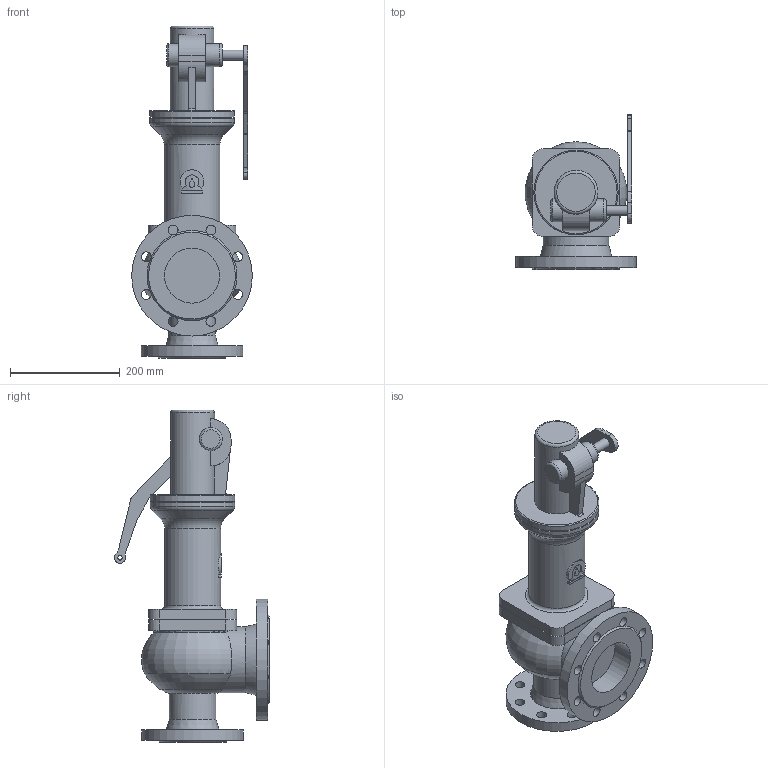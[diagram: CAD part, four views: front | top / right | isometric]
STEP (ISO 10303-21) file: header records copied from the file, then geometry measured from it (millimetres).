
FILE_DESCRIPTION(('STEP AP203'), '1');
FILE_NAME('Êëàïàí ïðåäîõðàíèòåëüíûé ïîëíîïîäüåìíûé SV2F DN65x100', '', ('UNSPECIFIED'), ('UNSPECIFIED'), 'ASCON STEP Converter 1.6', 'ASCON Math Kernel', '');
FILE_SCHEMA(('CONFIG_CONTROL_DESIGN'));
Length unit declared in the file: millimetre
Bounding box: 220 x 282.37 x 605 mm (x, y, z)
Volume: 7277617 mm3; surface area: 581908.5 mm2
Topology: 1 solids, 2 shells, 146 faces, 448 edges, 305 vertices
Faces by surface type: plane 65, cylinder 62, torus 10, cone 7, revolution 2
Full cylindrical faces by diameter (mm): 8 x1, 18 x17, 42 x2, 65 x1, 80 x1, 85 x1, 100 x1, 102 x1, 120 x1, 136 x1, 145.14 x1, 154 x2, 185 x1, 220 x1
Entity records: 8430 total; most frequent: CARTESIAN_POINT 3237, DIRECTION 850, ORIENTED_EDGE 796, EDGE_CURVE 398, AXIS2_PLACEMENT_3D 359, VERTEX_POINT 305, EDGE_LOOP 229, CIRCLE 214
